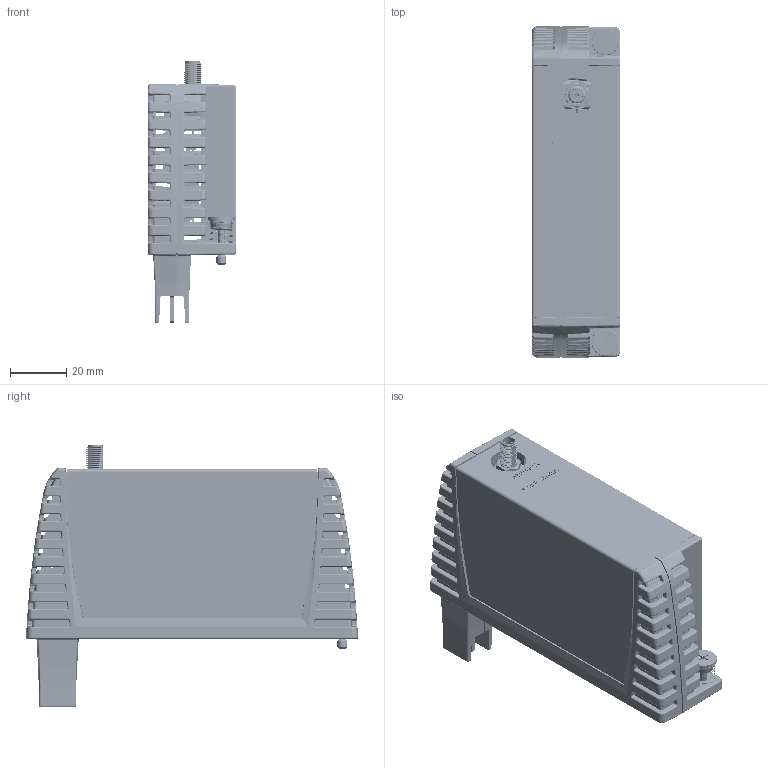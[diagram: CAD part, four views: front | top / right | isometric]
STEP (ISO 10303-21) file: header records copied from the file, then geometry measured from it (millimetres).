
FILE_DESCRIPTION (( 'STEP AP214' ), '1' );
FILE_NAME ('GMHSPA.STEP', '2016-03-30T10:41:16', ( 'Network Administration' ), ( 'Red Lion Controls Inc.' ), 'SwSTEP 2.0', 'SolidWorks 2014', '' );
FILE_SCHEMA (( 'AUTOMOTIVE_DESIGN' ));
Length unit declared in the file: millimetre
Products named in the file (11): HWSMEF06_91771A143; McMC 90692A086; McMC 90402A106_90402A106; CV514900_MODULE SHEET METAL WRAP_GMHSPA WRAPPER - CV508901; CA503100_MODULE CASE, RIGHT HALF; CA503000_MODULE CASE, LEFT HALF; GMHSPA; 92010A112_92010A112; PEM F-632-1; M5018B-2014-07-14; PEM SCBR-632-8 ZI
Assembly tree (16 placements, depth 2):
  GMHSPA
    CA503000_MODULE CASE, LEFT HALF
    CA503100_MODULE CASE, RIGHT HALF
    CV514900_MODULE SHEET METAL WRAP_GMHSPA WRAPPER - CV508901
    McMC 90402A106_90402A106  x2
    McMC 90692A086  x4
    HWSMEF06_91771A143  x2
    PEM SCBR-632-8 ZI  x2
    M5018B-2014-07-14
    PEM F-632-1
    92010A112_92010A112
Bounding box: 31.5 x 117.84 x 93.27 mm (x, y, z)
Volume: 42393.1 mm3; surface area: 83262 mm2
Topology: 17 solids, 395 shells, 6236 faces, 18980 edges, 12823 vertices
Faces by surface type: plane 2487, bspline 1501, cylinder 1384, torus 397, cone 361, sphere 106
Entity records: 267469 total; most frequent: CARTESIAN_POINT 100711, ORIENTED_EDGE 31089, DIRECTION 26712, EDGE_CURVE 18046, VERTEX_POINT 12286, LINE 9548, VECTOR 9548, AXIS2_PLACEMENT_3D 8582
